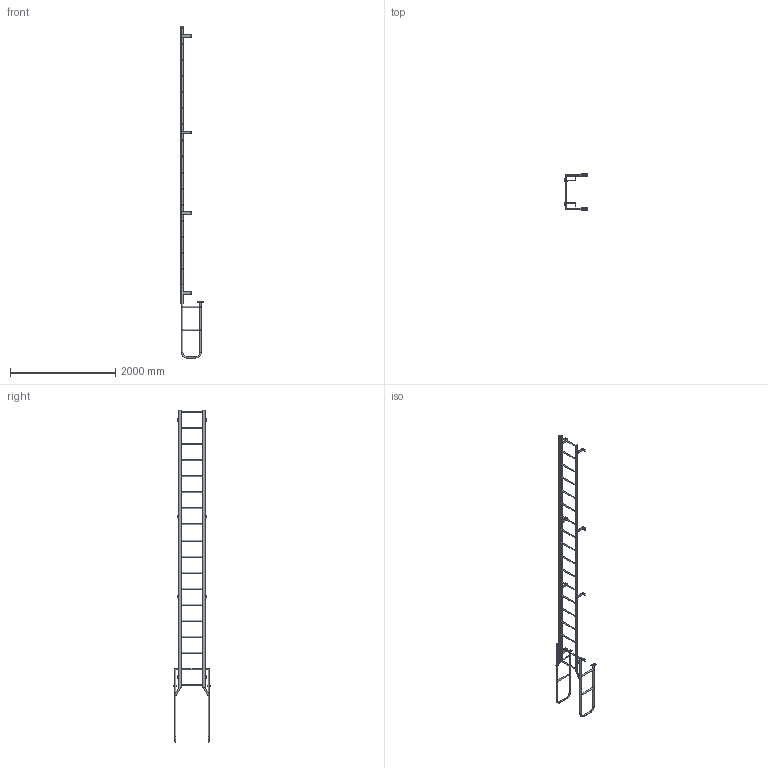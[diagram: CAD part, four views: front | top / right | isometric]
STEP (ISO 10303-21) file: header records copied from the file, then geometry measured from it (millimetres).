
FILE_DESCRIPTION(/* description */ (''),/* implementation_level */ '2;1');
FILE_NAME(/* name */ 'P:\MIKEL & KAREN\3570236 F18W SIMPLIFIED PART.stp',/* time_stamp */ '2018-07-02T15:50:45-04:00',/* author */ ('stephanie'),/* organization */ (''),/* preprocessor_version */ 'ST-DEVELOPER v16.1',/* originating_system */ 'Autodesk Inventor 2016',/* authorisation */ '');
FILE_SCHEMA (('AUTOMOTIVE_DESIGN { 1 0 10303 214 3 1 1 }'));
Length unit declared in the file: centimetre
Products named in the file (1): 3570236 F18W SIMPLIFIED PART
Bounding box: 425.58 x 685.8 x 6299.2 mm (x, y, z)
Volume: 10127277.1 mm3; surface area: 3809970.8 mm2
Topology: 26 solids, 26 shells, 340 faces, 872 edges, 578 vertices
Faces by surface type: plane 177, cylinder 155, torus 8
Full cylindrical faces by diameter (mm): 10.319 x4, 14.287 x8, 19.05 x18, 22.098 x10, 22.225 x36, 25.4 x10
Entity records: 10435 total; most frequent: CARTESIAN_POINT 1999, DIRECTION 1724, ORIENTED_EDGE 1468, EDGE_CURVE 728, AXIS2_PLACEMENT_3D 671, EDGE_LOOP 538, VERTEX_POINT 530, LINE 382
